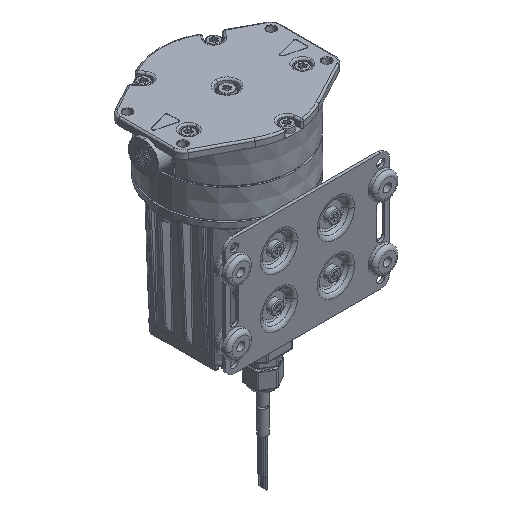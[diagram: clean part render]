
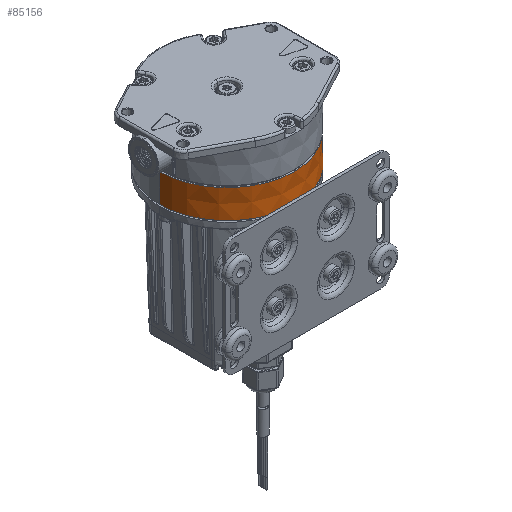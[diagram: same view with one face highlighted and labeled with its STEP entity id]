
A CAD part, isometric view. The second image highlights one B-rep face of the part: STEP entity #85156.
In plain terms, the highlighted conical face has half-angle 1 degrees and reference radius 37.85 mm.
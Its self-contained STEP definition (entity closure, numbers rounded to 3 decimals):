
#13292=CARTESIAN_POINT('',(0.,0.,20.3));
#13293=DIRECTION('',(0.,0.,1.));
#13294=DIRECTION('',(-1.,0.,0.));
#13295=AXIS2_PLACEMENT_3D('',#13292,#13293,#13294);
#13312=CARTESIAN_POINT('',(0.,0.,4.5));
#13313=DIRECTION('',(0.,0.,-1.));
#13314=DIRECTION('',(1.,0.,0.));
#13315=AXIS2_PLACEMENT_3D('',#13312,#13313,#13314);
#13317=DIRECTION('',(0.017,0.,1.));
#13318=VECTOR('',#13317,15.802);
#13319=CARTESIAN_POINT('',(-37.988,0.,4.5));
#13320=LINE('',#13319,#13318);
#13321=DIRECTION('',(0.017,0.,-1.));
#13322=VECTOR('',#13321,15.802);
#13323=CARTESIAN_POINT('',(37.712,0.,20.3));
#13324=LINE('',#13323,#13322);
#62399=CARTESIAN_POINT('',(37.712,0.,20.3));
#62400=CARTESIAN_POINT('',(-37.712,0.,20.3));
#62401=VERTEX_POINT('',#62399);
#62402=VERTEX_POINT('',#62400);
#62427=CARTESIAN_POINT('',(-37.988,0.,4.5));
#62428=CARTESIAN_POINT('',(37.988,0.,4.5));
#62429=VERTEX_POINT('',#62427);
#62430=VERTEX_POINT('',#62428);
#85145=CARTESIAN_POINT('',(0.,0.,12.4));
#85146=DIRECTION('',(0.,0.,-1.));
#85147=DIRECTION('',(-1.,0.,0.));
#85148=AXIS2_PLACEMENT_3D('',#85145,#85146,#85147);
#85149=CONICAL_SURFACE('',#85148,37.85,1.);
#85150=ORIENTED_EDGE('',*,*,#85127,.T.);
#85151=ORIENTED_EDGE('',*,*,#85109,.T.);
#85152=ORIENTED_EDGE('',*,*,#85083,.T.);
#85153=ORIENTED_EDGE('',*,*,#85106,.T.);
#85154=EDGE_LOOP('',(#85150,#85151,#85152,#85153));
#85155=FACE_OUTER_BOUND('',#85154,.F.);
#13296=CIRCLE('',#13295,37.712);
#13316=CIRCLE('',#13315,37.988);
#85083=EDGE_CURVE('',#62402,#62401,#13296,.T.);
#85106=EDGE_CURVE('',#62401,#62430,#13324,.T.);
#85109=EDGE_CURVE('',#62429,#62402,#13320,.T.);
#85127=EDGE_CURVE('',#62430,#62429,#13316,.T.);
#85156=ADVANCED_FACE('',(#85155),#85149,.T.);
